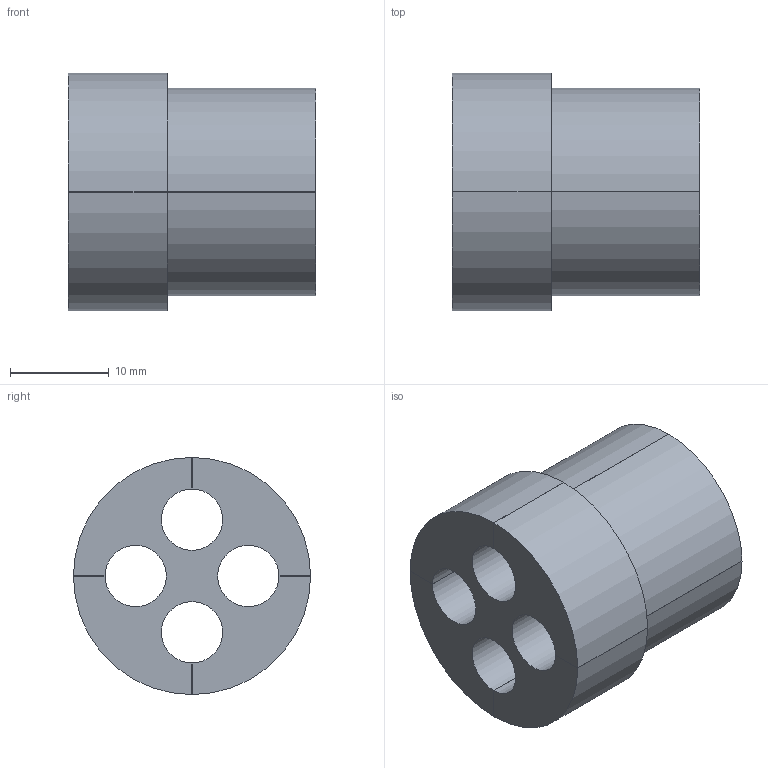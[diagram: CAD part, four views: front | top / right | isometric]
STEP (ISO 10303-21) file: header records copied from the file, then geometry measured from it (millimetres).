
FILE_DESCRIPTION(('Creo Elements/Direct Modeling STEP Export'),'2;1');
FILE_NAME('H11-0011-CL907-00_G22-604RS.stp','2023-06-09T13:11:42',(''),(''),'Creo Elements/Direct Modeling STEP processor for AP214 (Solid Model)','Creo Elements/Direct Modeling 20.3B 05-Dec-2020 (C) Parametric Technology GmbH','');
FILE_SCHEMA(('AUTOMOTIVE_DESIGN { 1 0 10303 214 1 1 1 1 }'));
Length unit declared in the file: millimetre
Products named in the file (2): G22-604RS
Assembly tree (1 placements, depth 2):
  G22-604RS
    G22-604RS
Bounding box: 25 x 24 x 24 mm (x, y, z)
Volume: 6697.9 mm3; surface area: 4812.4 mm2
Topology: 1 solids, 1 shells, 26 faces, 72 edges, 48 vertices
Faces by surface type: plane 14, cylinder 12
Entity records: 780 total; most frequent: ORIENTED_EDGE 144, CARTESIAN_POINT 127, DIRECTION 110, EDGE_CURVE 72, VECTOR 48, LINE 48, VERTEX_POINT 48, AXIS2_PLACEMENT_3D 31
